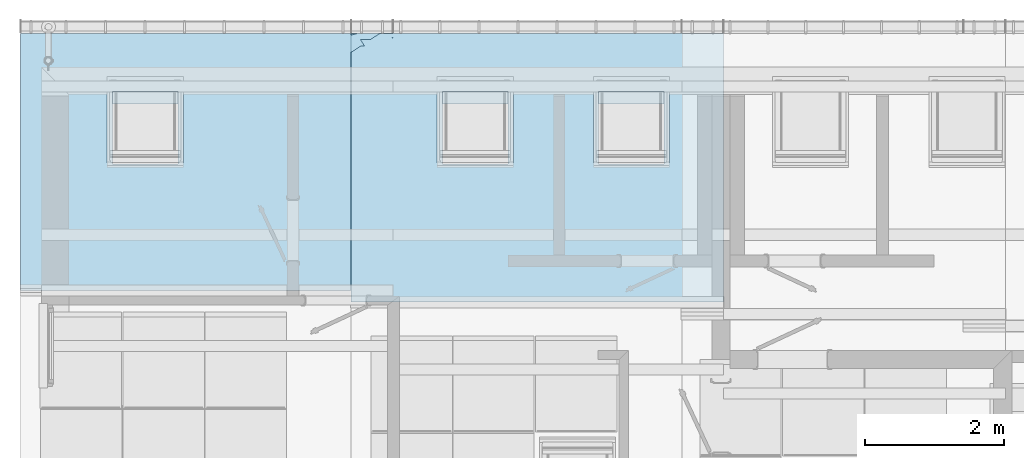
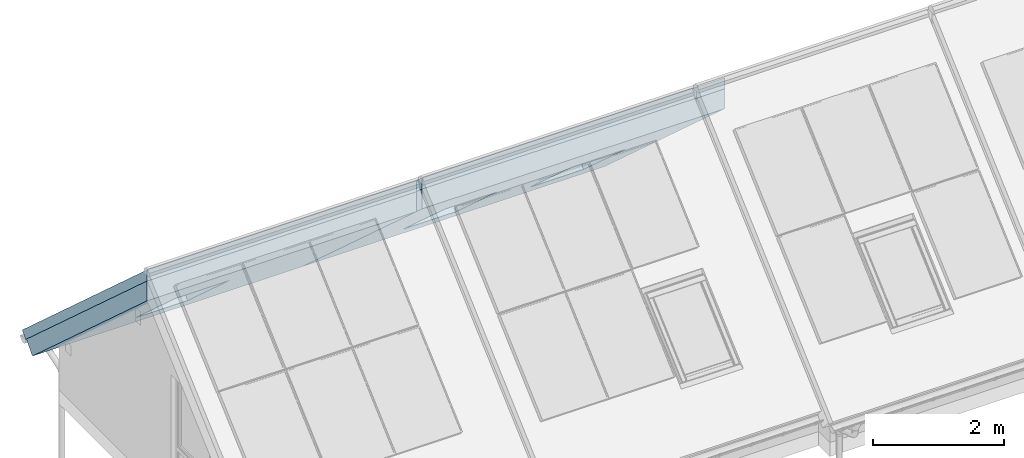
# One storey, part 2 of 43: 4 slabs, 6 openings, 2 elements without a shape of their own.
"""IFC2X3 building model written with IfcOpenShell, lengths in millimetres."""

from ifc_helpers import new_model, si_unit, frame, origin_with_axes, place, context, project, spatial, faceted_brep, element, aggregate, save


model = new_model("IFC2X3")

# Units and contexts
model_context = context("Model", 3, world=origin_with_axes())
ifc_project = project(units=[si_unit("LENGTHUNIT", "METRE", prefix="MILLI")], contexts=[model_context])

# Site, building, storey
site_placement = place(None, origin_with_axes())
site = spatial("IfcSite", under=ifc_project, at=site_placement, Name="Site", CompositionType="ELEMENT")
building_placement = place(site_placement, origin_with_axes())
building = spatial("IfcBuilding", under=site, at=building_placement, Name="?", CompositionType="ELEMENT")
storey_placement = place(building_placement, frame((0.0, 0.0, 5938.0), z_axis=(0.0, 0.0, 1.0), x_axis=(1.0, 0.0, 0.0)))
storey = spatial("IfcBuildingStorey", under=building, at=storey_placement, Name="Dachgeschoß", CompositionType="ELEMENT", Elevation=5938.0)

# Roof, slabs, openings
roof_1_placement = place(None, origin_with_axes())
roof_1 = element("IfcRoof", 1, at=roof_1_placement, inside=storey, Name="Dach03", ShapeType="NOTDEFINED")
slab_1_placement = place(roof_1_placement, frame((9500.0, 0.0, 6767.55029296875), z_axis=(0.0, 0.669130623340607, 0.743144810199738), x_axis=(-1.00000000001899, 0.0, 0.0)))
slab_1 = element("IfcSlab", 2, at=slab_1_placement, Name="DAFL_Rafter", PredefinedType="ROOF", context=model_context, shape_type="Brep", body=[
    faceted_brep([(5050.0021875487, 4545.54741394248, -4.45530458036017e-05), (-299.999988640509, 4545.54741394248, -4.45530458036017e-05), (-300.000322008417, 4793.15841274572, 274.999816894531), (5050.00224712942, 4793.15841274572, 274.999816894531), (5049.99980572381, -403.690063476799, -4.45530458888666e-05), (5050.0021875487, 4545.54741394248, -4.45530458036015e-05), (5050.00224712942, 4793.15841274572, 274.999816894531), (5049.99974614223, -403.688601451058, 274.999816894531), (-300.006181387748, -403.690063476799, -4.45530458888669e-05), (5049.99980572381, -403.690063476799, -4.45530458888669e-05), (5049.99974614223, -403.688601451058, 274.999816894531), (-300.006824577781, -403.688601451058, 274.999816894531), (-299.99998864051, 4545.54741394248, -4.45530458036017e-05), (-300.006181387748, -403.690063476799, -4.45530458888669e-05), (-300.006824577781, -403.688601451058, 274.999816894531), (-300.000322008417, 4793.15841274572, 274.999816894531), (5050.00224712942, 4793.15841274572, 274.999816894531), (-300.000322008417, 4793.15841274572, 274.999816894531), (-300.006824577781, -403.688601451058, 274.999816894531), (5049.99974614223, -403.688601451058, 274.999816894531), (5050.0021875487, 4545.54741394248, -4.45530458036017e-05), (5049.99980572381, -403.690063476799, -4.45530458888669e-05), (-300.006181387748, -403.690063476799, -4.45530458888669e-05), (-299.999988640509, 4545.54741394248, -4.45530458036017e-05)], [[[0, 1, 2, 3]], [[4, 5, 6, 7]], [[8, 9, 10, 11]], [[12, 13, 14, 15]], [[16, 17, 18, 19]], [[20, 21, 22, 23]]]),
])
opening_1_placement = place(slab_1_placement, frame((2798.99999994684, 2116.30575787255, 274.999856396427), z_axis=(0.0, -1.00000000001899, 0.0), x_axis=(1.00000000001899, 0.0, 0.0)))
element("IfcOpeningElement", 3, at=opening_1_placement, cuts=slab_1, Name="DAFL_Rafter|DF06", context=model_context, shape_type="Brep", body=[
    faceted_brep([(940.000538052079, -285.000213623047, -316.529153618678), (939.999998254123, -285.000213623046, 1400.00056804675), (-0.000539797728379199, -285.000213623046, 1400.00052268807), (1.79625203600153e-11, -285.000213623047, -316.529153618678), (940.000538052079, -285.000213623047, -316.529153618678), (1.79625203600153e-11, -285.000213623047, -316.529153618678), (-5.15153038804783e-05, 10.0002851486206, 11.1006030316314), (940.000486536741, 10.0002851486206, 11.1006030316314), (939.999998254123, -285.000213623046, 1400.00056804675), (940.000538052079, -285.000213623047, -316.529153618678), (940.000486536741, 10.0002851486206, 11.1006030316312), (940.000049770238, 10.0002851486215, 1399.9956046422), (-0.000539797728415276, -285.000213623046, 1400.00052268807), (939.999998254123, -285.000213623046, 1400.00056804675), (940.000049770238, 10.0002851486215, 1399.9956046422), (-0.00048828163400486, 10.0002851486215, 1399.99555928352), (1.79635186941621e-11, -285.000213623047, -316.529153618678), (-0.000539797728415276, -285.000213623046, 1400.00052268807), (-0.00048828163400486, 10.0002851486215, 1399.99555928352), (-5.15153038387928e-05, 10.0002851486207, 11.1006030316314), (940.000486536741, 10.0002851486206, 11.1006030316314), (-5.15153038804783e-05, 10.0002851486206, 11.1006030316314), (-0.000488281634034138, 10.0002851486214, 1399.99555928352), (940.000049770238, 10.0002851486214, 1399.9956046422)], [[[0, 1, 2, 3]], [[4, 5, 6, 7]], [[8, 9, 10, 11]], [[12, 13, 14, 15]], [[16, 17, 18, 19]], [[20, 21, 22, 23]]]),
])
opening_2_placement = place(slab_1_placement, frame((554.999999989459, 2116.30575787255, 274.999856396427), z_axis=(0.0, -1.00000000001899, 0.0), x_axis=(1.00000000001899, 0.0, 0.0)))
element("IfcOpeningElement", 4, at=opening_2_placement, cuts=slab_1, Name="DAFL_Rafter|DF07", context=model_context, shape_type="Brep", body=[
    faceted_brep([(939.999201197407, -285.000213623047, -316.529153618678), (940.000010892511, -285.000213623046, 1400.00056804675), (-0.00161939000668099, -285.000213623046, 1400.00052268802), (2.56477505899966e-10, -285.000213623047, -316.529153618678), (939.999201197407, -285.000213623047, -316.529153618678), (2.56363819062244e-10, -285.000213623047, -316.529153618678), (-0.000642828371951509, 10.0002851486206, 11.1006030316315), (939.999522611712, 10.0002851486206, 11.1006030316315), (940.000010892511, -285.000213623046, 1400.00056804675), (939.999201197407, -285.000213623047, -316.529153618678), (939.999522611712, 10.0002851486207, 11.1006030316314), (940.000177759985, 10.0002851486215, 1399.9956046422), (-0.00161939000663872, -285.000213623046, 1400.00052268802), (940.000010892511, -285.000213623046, 1400.00056804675), (940.000177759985, 10.0002851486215, 1399.9956046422), (-0.00195312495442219, 10.0002851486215, 1399.99555928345), (2.56508447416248e-10, -285.000213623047, -316.529153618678), (-0.00161939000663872, -285.000213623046, 1400.00052268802), (-0.00195312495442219, 10.0002851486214, 1399.99555928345), (-0.000642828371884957, 10.0002851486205, 11.1006030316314), (939.999522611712, 10.0002851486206, 11.1006030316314), (-0.000642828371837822, 10.0002851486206, 11.1006030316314), (-0.00195312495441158, 10.0002851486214, 1399.99555928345), (940.000177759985, 10.0002851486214, 1399.9956046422)], [[[0, 1, 2, 3]], [[4, 5, 6, 7]], [[8, 9, 10, 11]], [[12, 13, 14, 15]], [[16, 17, 18, 19]], [[20, 21, 22, 23]]]),
])
slab_2_placement = place(roof_1_placement, frame((9500.0, 0.0, 6767.55029296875), z_axis=(0.0, 0.669130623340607, 0.743144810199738), x_axis=(-1.00000000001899, 0.0, 0.0)))
slab_2 = element("IfcSlab", 5, at=slab_2_placement, Name="DAFL_Tile", PredefinedType="ROOF", context=model_context, shape_type="Brep", body=[
    faceted_brep([(5049.99870863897, 4793.15841274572, 274.999816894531), (-299.999996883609, 4793.15841274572, 274.999816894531), (-299.999868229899, 4932.7211725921, 429.999957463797), (5049.99868934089, 4932.7211725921, 429.999957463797), (5050.00015418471, -433.696160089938, 274.999816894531), (5049.99870863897, 4793.15841274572, 274.999816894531), (5049.99868934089, 4932.7211725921, 429.999957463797), (5050.00017348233, -433.689258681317, 429.999505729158), (-300.009633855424, -433.696160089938, 274.999816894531), (5050.00015418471, -433.696160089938, 274.999816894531), (5050.00017348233, -433.689258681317, 429.999505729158), (-300.009762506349, -433.689258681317, 429.999505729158), (-299.999996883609, 4793.15841274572, 274.999816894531), (-300.009633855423, -433.696160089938, 274.999816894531), (-300.009762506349, -433.689258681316, 429.999505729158), (-299.999868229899, 4932.7211725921, 429.999957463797), (5049.99868934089, 4932.7211725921, 429.999957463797), (-299.999868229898, 4932.7211725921, 429.999957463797), (-300.009762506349, -433.689258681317, 429.999505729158), (5050.00017348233, -433.689258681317, 429.999505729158), (5049.99870863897, 4793.15841274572, 274.999816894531), (5050.00015418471, -433.696160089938, 274.999816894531), (-300.009633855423, -433.696160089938, 274.999816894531), (-299.999996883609, 4793.15841274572, 274.999816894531)], [[[0, 1, 2, 3]], [[4, 5, 6, 7]], [[8, 9, 10, 11]], [[12, 13, 14, 15]], [[16, 17, 18, 19]], [[20, 21, 22, 23]]]),
])
opening_3_placement = place(slab_2_placement, frame((2798.99999994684, 2116.30575787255, 274.999856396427), z_axis=(0.0, -1.00000000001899, 0.0), x_axis=(1.00000000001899, 0.0, 0.0)))
element("IfcOpeningElement", 6, at=opening_3_placement, cuts=slab_2, Name="DAFL_Tile|DF06", context=model_context, shape_type="Brep", body=[
    faceted_brep([(1017.0, -9.99971485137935, -126.998050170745), (1017.0, -9.99971485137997, 1549.00077330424), (-77.0014682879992, -9.99971485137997, 1549.00079881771), (-77.0000034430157, -9.99971485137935, -126.998095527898), (1017.0, -9.99971485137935, -126.998050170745), (-77.0000034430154, -9.99971485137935, -126.998095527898), (-77.000003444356, 164.999801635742, -126.994629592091), (1017.0, 164.999801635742, -126.994584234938), (1017.0, -9.99971485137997, 1549.00077330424), (1017.0, -9.99971485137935, -126.998050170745), (1017.0, 164.999801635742, -126.994584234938), (1017.0, 164.999801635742, 1549.00391534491), (-77.0014682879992, -9.99971485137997, 1549.00079881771), (1017.0, -9.99971485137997, 1549.00077330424), (1017.0, 164.999801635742, 1549.00391534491), (-77.0014682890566, 164.999801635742, 1549.00394085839), (-77.0000034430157, -9.99971485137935, -126.998095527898), (-77.0014682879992, -9.99971485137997, 1549.00079881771), (-77.0014682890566, 164.999801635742, 1549.00394085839), (-77.0000034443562, 164.999801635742, -126.994629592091), (1017.0, 164.999801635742, -126.994584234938), (-77.0000034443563, 164.999801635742, -126.994629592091), (-77.0014682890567, 164.999801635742, 1549.00394085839), (1017.0, 164.999801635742, 1549.00391534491)], [[[0, 1, 2, 3]], [[4, 5, 6, 7]], [[8, 9, 10, 11]], [[12, 13, 14, 15]], [[16, 17, 18, 19]], [[20, 21, 22, 23]]]),
])
opening_4_placement = place(slab_2_placement, frame((554.999999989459, 2116.30575787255, 274.999856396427), z_axis=(0.0, -1.00000000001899, 0.0), x_axis=(1.00000000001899, 0.0, 0.0)))
element("IfcOpeningElement", 7, at=opening_4_placement, cuts=slab_2, Name="DAFL_Tile|DF07", context=model_context, shape_type="Brep", body=[
    faceted_brep([(1017.0, -9.99971485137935, -126.998050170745), (1017.0, -9.99971485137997, 1549.00077427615), (-77.0019500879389, -9.99971485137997, 1549.00079978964), (-76.9999969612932, -9.99971485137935, -126.998095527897), (1017.0, -9.99971485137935, -126.998050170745), (-76.9999969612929, -9.99971485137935, -126.998095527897), (-76.9999969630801, 164.999801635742, -126.994629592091), (1017.0, 164.999801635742, -126.994584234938), (1017.0, -9.99971485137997, 1549.00077427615), (1017.0, -9.99971485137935, -126.998050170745), (1017.0, 164.999801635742, -126.994584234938), (1017.0, 164.999801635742, 1549.00389930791), (-77.0019500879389, -9.99971485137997, 1549.00079978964), (1017.0, -9.99971485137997, 1549.00077427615), (1017.0, 164.999801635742, 1549.00389930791), (-77.0019500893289, 164.999801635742, 1549.0039248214), (-76.9999969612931, -9.99971485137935, -126.998095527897), (-77.0019500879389, -9.99971485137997, 1549.00079978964), (-77.0019500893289, 164.999801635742, 1549.0039248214), (-76.9999969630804, 164.999801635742, -126.994629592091), (1017.0, 164.999801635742, -126.994584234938), (-76.9999969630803, 164.999801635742, -126.994629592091), (-77.0019500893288, 164.999801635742, 1549.0039248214), (1017.0, 164.999801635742, 1549.00389930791)], [[[0, 1, 2, 3]], [[4, 5, 6, 7]], [[8, 9, 10, 11]], [[12, 13, 14, 15]], [[16, 17, 18, 19]], [[20, 21, 22, 23]]]),
])
aggregate(roof_1, [slab_1, slab_2])

roof_2_placement = place(None, origin_with_axes())
roof_2 = element("IfcRoof", 8, at=roof_2_placement, inside=storey, Name="Dach04", ShapeType="NOTDEFINED")
slab_3_placement = place(roof_2_placement, frame((4750.0, 0.0, 6767.55029296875), z_axis=(0.0, 0.669130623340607, 0.743144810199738), x_axis=(-1.00000000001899, 0.0, 0.0)))
slab_3 = element("IfcSlab", 9, at=slab_3_placement, Name="DAFL_Rafter", PredefinedType="ROOF", context=model_context, shape_type="Brep", body=[
    faceted_brep([(5050.0, 4316.1170526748, 0.000209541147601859), (-299.999993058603, 4316.1170526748, 0.000209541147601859), (-300.000030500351, 4563.72770982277, 274.999341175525), (5050.0, 4563.72770982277, 274.999341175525), (5050.0, -403.690063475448, 0.000209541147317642), (5050.0, 4316.1170526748, 0.000209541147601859), (5050.0, 4563.72770982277, 274.999341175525), (5050.0, -403.688601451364, 274.999759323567), (-299.998565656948, -403.690063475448, 0.000209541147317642), (5050.0, -403.690063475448, 0.000209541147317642), (5050.0, -403.688601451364, 274.999759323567), (-299.998528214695, -403.688601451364, 274.999759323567), (-299.999993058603, 4316.1170526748, 0.000209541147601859), (-299.998565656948, -403.690063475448, 0.000209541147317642), (-299.998528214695, -403.688601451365, 274.999759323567), (-300.000030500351, 4563.72770982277, 274.999341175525), (5050.0, 4563.72770982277, 274.999341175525), (-300.00003050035, 4563.72770982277, 274.999341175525), (-299.998528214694, -403.688601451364, 274.999759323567), (5050.0, -403.688601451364, 274.999759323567), (5050.0, 4316.1170526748, 0.000209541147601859), (5050.0, -403.690063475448, 0.000209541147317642), (-299.998565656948, -403.690063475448, 0.000209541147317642), (-299.999993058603, 4316.1170526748, 0.000209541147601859)], [[[0, 1, 2, 3]], [[4, 5, 6, 7]], [[8, 9, 10, 11]], [[12, 13, 14, 15]], [[16, 17, 18, 19]], [[20, 21, 22, 23]]]),
])
opening_5_placement = place(slab_3_placement, frame((2789.99999994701, 2116.30575787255, 274.999856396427), z_axis=(0.0, -1.00000000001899, 0.0), x_axis=(1.00000000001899, 0.0, 0.0)))
element("IfcOpeningElement", 10, at=opening_5_placement, cuts=slab_3, Name="DAFL_Rafter|DF09", context=model_context, shape_type="Brep", body=[
    faceted_brep([(940.00006725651, -285.000213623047, -316.529153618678), (939.999999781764, -285.000213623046, 1400.00058995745), (0.000269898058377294, -285.000213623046, 1400.00054459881), (-6.20730133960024e-11, -285.000213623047, -316.529153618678), (940.00006725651, -285.000213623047, -316.529153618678), (-6.20730133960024e-11, -285.000213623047, -316.529153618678), (0.000147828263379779, 10.0002851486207, 11.1006030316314), (940.000060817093, 10.0002851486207, 11.1006030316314), (939.999999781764, -285.000213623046, 1400.00058995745), (940.00006725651, -285.000213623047, -316.529153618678), (940.000060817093, 10.0002851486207, 11.1006030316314), (940.00000622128, 10.0002851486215, 1399.99560387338), (0.000269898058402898, -285.000213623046, 1400.00054459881), (939.999999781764, -285.000213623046, 1400.00058995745), (940.000006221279, 10.0002851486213, 1399.99560387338), (0.000366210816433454, 10.0002851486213, 1399.99555851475), (-6.20376602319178e-11, -285.000213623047, -316.529153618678), (0.000269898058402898, -285.000213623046, 1400.00054459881), (0.000366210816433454, 10.0002851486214, 1399.99555851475), (0.000147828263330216, 10.0002851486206, 11.1006030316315), (940.000060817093, 10.0002851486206, 11.1006030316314), (0.000147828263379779, 10.0002851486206, 11.1006030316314), (0.000366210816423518, 10.0002851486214, 1399.99555851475), (940.00000622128, 10.0002851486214, 1399.99560387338)], [[[0, 1, 2, 3]], [[4, 5, 6, 7]], [[8, 9, 10, 11]], [[12, 13, 14, 15]], [[16, 17, 18, 19]], [[20, 21, 22, 23]]]),
])
slab_4_placement = place(roof_2_placement, frame((4750.0, 0.0, 6767.55029296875), z_axis=(0.0, 0.669130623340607, 0.743144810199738), x_axis=(-1.00000000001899, 0.0, 0.0)))
slab_4 = element("IfcSlab", 11, at=slab_4_placement, Name="DAFL_Tile", PredefinedType="ROOF", context=model_context, shape_type="Brep", body=[
    faceted_brep([(5050.0, 4563.72743225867, 274.999341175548), (-299.999998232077, 4563.72743225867, 274.999341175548), (-299.999978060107, 4703.29052361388, 429.999481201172), (5050.0, 4703.29052361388, 429.999481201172), (5050.0, -433.696160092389, 274.999761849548), (5050.0, 4563.72743225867, 274.999341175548), (5050.0, 4703.29052361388, 429.999481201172), (5050.0, -433.689258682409, 429.999481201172), (-300.001442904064, -433.696160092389, 274.999761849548), (5050.0, -433.696160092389, 274.999761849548), (5050.0, -433.689258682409, 429.999481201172), (-300.00146307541, -433.689258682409, 429.999481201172), (-299.999998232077, 4563.72743225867, 274.999341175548), (-300.001442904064, -433.69616009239, 274.999761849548), (-300.00146307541, -433.68925868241, 429.999481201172), (-299.999978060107, 4703.29052361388, 429.999481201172), (5050.0, 4703.29052361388, 429.999481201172), (-299.999978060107, 4703.29052361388, 429.999481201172), (-300.001463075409, -433.689258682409, 429.999481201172), (5050.0, -433.689258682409, 429.999481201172), (5050.0, 4563.72743225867, 274.999341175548), (5050.0, -433.696160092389, 274.999761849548), (-300.001442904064, -433.696160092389, 274.999761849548), (-299.999998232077, 4563.72743225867, 274.999341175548)], [[[0, 1, 2, 3]], [[4, 5, 6, 7]], [[8, 9, 10, 11]], [[12, 13, 14, 15]], [[16, 17, 18, 19]], [[20, 21, 22, 23]]]),
])
opening_6_placement = place(slab_4_placement, frame((2789.99999994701, 2116.30575787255, 274.999856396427), z_axis=(0.0, -1.00000000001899, 0.0), x_axis=(1.00000000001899, 0.0, 0.0)))
element("IfcOpeningElement", 12, at=opening_6_placement, cuts=slab_4, Name="DAFL_Tile|DF09", context=model_context, shape_type="Brep", body=[
    faceted_brep([(1017.0003364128, -9.99971485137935, -126.998050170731), (1016.99997020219, -9.99971485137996, 1549.00077330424), (-76.9996310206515, -9.99971485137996, 1549.00079881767), (-76.9999972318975, -9.99971485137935, -126.998095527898), (1017.0003364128, -9.99971485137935, -126.998050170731), (-76.9999972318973, -9.99971485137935, -126.998095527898), (-76.9999972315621, 164.999801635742, -126.994629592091), (1017.00027537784, 164.999801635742, -126.994584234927), (1016.99997020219, -9.99971485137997, 1549.00077330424), (1017.0003364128, -9.99971485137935, -126.998050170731), (1017.00027537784, 164.999801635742, -126.994584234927), (1016.9999091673, 164.999801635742, 1549.00391534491), (-76.9996310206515, -9.99971485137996, 1549.00079881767), (1016.99997020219, -9.99971485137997, 1549.00077330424), (1016.9999091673, 164.999801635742, 1549.00391534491), (-76.9996310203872, 164.999801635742, 1549.00394085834), (-76.9999972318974, -9.99971485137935, -126.998095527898), (-76.9996310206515, -9.99971485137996, 1549.00079881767), (-76.9996310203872, 164.999801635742, 1549.00394085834), (-76.9999972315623, 164.999801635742, -126.994629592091), (1017.00027537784, 164.999801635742, -126.994584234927), (-76.9999972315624, 164.999801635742, -126.994629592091), (-76.9996310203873, 164.999801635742, 1549.00394085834), (1016.9999091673, 164.999801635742, 1549.00391534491)], [[[0, 1, 2, 3]], [[4, 5, 6, 7]], [[8, 9, 10, 11]], [[12, 13, 14, 15]], [[16, 17, 18, 19]], [[20, 21, 22, 23]]]),
])
aggregate(roof_2, [slab_3, slab_4])

save(model, "model.ifc")
